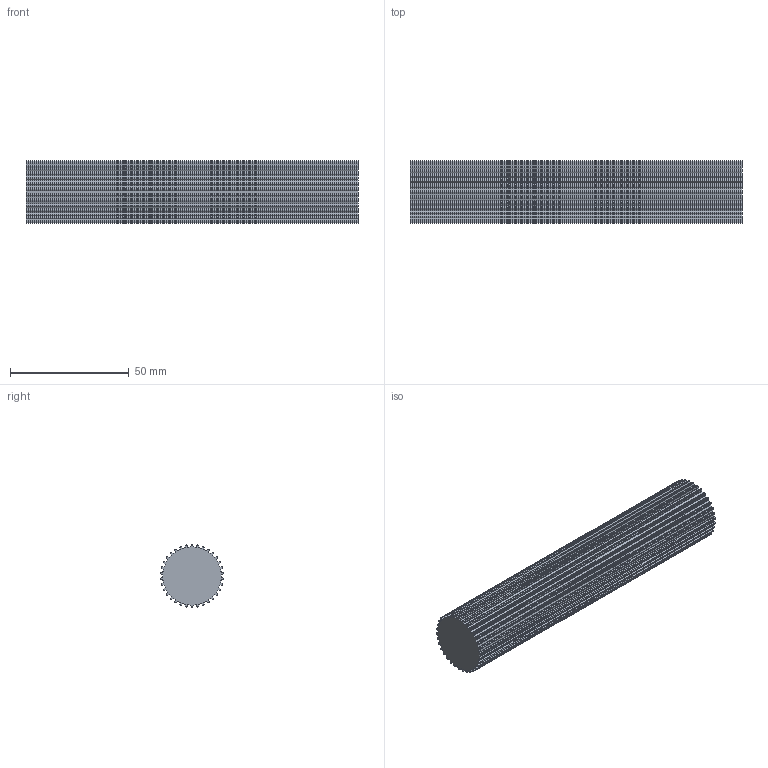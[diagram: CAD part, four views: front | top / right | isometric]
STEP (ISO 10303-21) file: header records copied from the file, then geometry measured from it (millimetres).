
FILE_DESCRIPTION( ( 'STEP AP214' ), '1' );
FILE_NAME( 'C:/Users/StangenbergN/Documents/CAD_Step/1/16093400.stp', '2019-07-25T19:41:54', ( '' ), ( '' ), ' ', 'PARTsolutions', ' ' );
FILE_SCHEMA( ( 'AUTOMOTIVE_DESIGN { 1 0 10303 214 1 1 1 1 }' ) );
Length unit declared in the file: millimetre
Products named in the file (1): _16093400
Bounding box: 140 x 26.46 x 26.56 mm (x, y, z)
Volume: 70511.2 mm3; surface area: 18169.1 mm2
Topology: 1 solids, 1 shells, 274 faces, 816 edges, 544 vertices
Faces by surface type: cylinder 170, plane 104
Entity records: 11548 total; most frequent: DIRECTION 1706, CARTESIAN_POINT 1635, ORIENTED_EDGE 1632, EDGE_CURVE 816, AXIS2_PLACEMENT_3D 615, VERTEX_POINT 544, LINE 476, VECTOR 476
